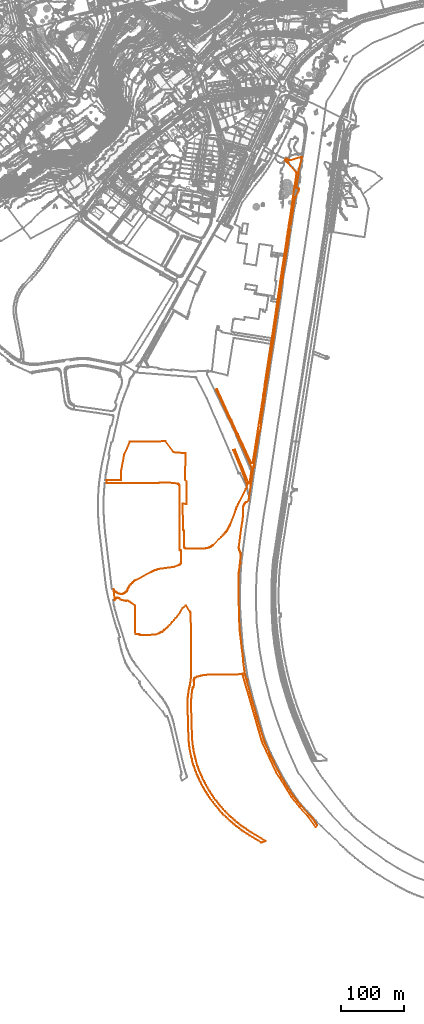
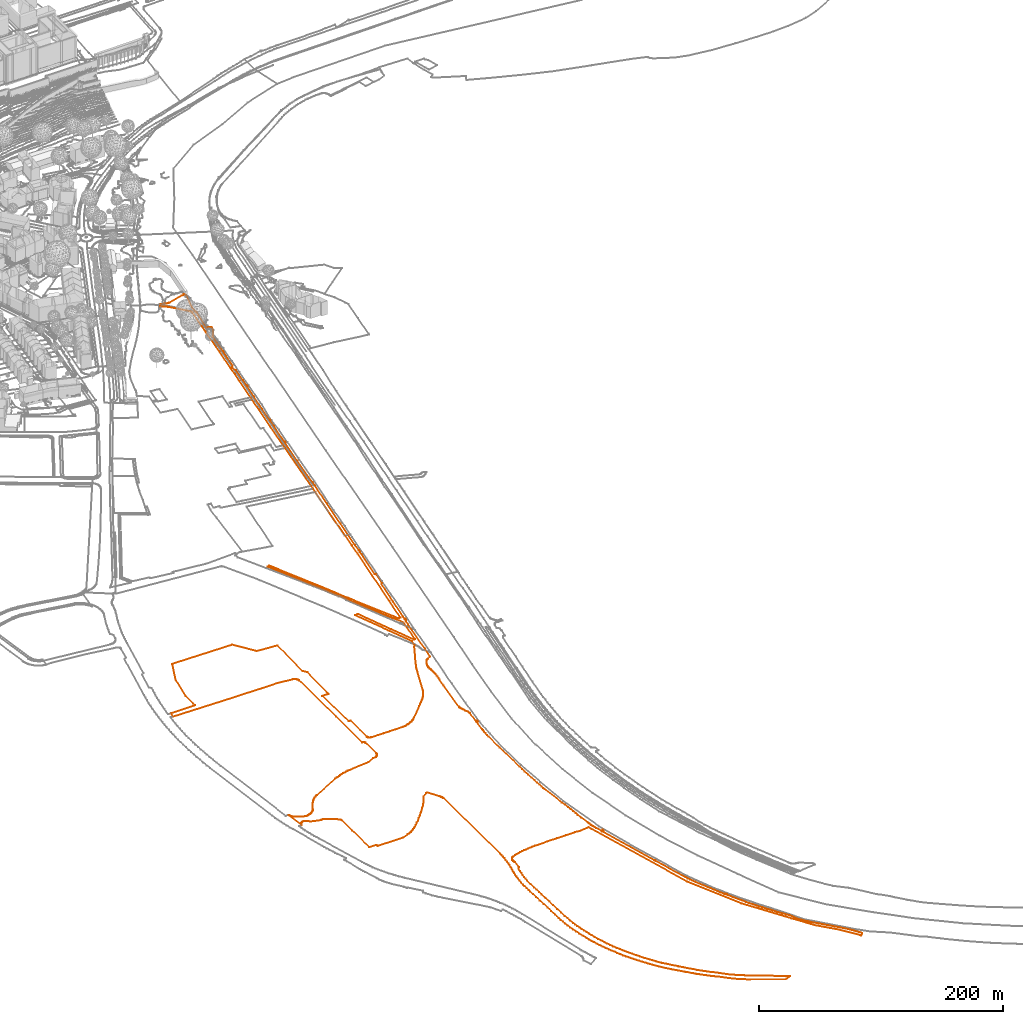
# Not in any storey, part 96 of 477: 1 civil element.
"""IFC4 model written with IfcOpenShell, lengths in metres."""

import ifcopenshell
import ifcopenshell.guid

model = None  # the IFC model being written
_history = None  # IfcOwnerHistory: only IFC2X3 demands one
_inside = {}  # id of a spatial element -> (the spatial element, [elements in it])
_under = {}  # id of a project, library or spatial element -> (it, [spatial elements below it])
_declared = {}  # id of a project -> (the project, [libraries it declares])
_typed = {}  # id of a type object -> (the type object, [elements of that type])
_made_of = {}  # id of a material, layer set ... -> (it, [elements and type objects made of it])


def new_model(schema):
    """Start an empty IFC model of exactly this schema.

    Asked for "IFC4X3", IfcOpenShell would pick the latest addendum, in which some entities
    have other attributes; the version numbers below select the first issue.
    IFC2X3 requires an IfcOwnerHistory on every rooted entity: one is made here for all.
    """
    global model, _history
    if schema == "IFC4X3":
        model = ifcopenshell.file(schema_version=(4, 3, 0, 0))
    else:
        model = ifcopenshell.file(schema=schema)
    _inside.clear()
    _under.clear()
    _declared.clear()
    _typed.clear()
    _made_of.clear()
    _history = None
    if model.schema == "IFC2X3":
        org = make("IfcOrganization", Name="unknown")
        user = make(
            "IfcPersonAndOrganization",
            ThePerson=make("IfcPerson", FamilyName="unknown"),
            TheOrganization=org,
        )
        app = make(
            "IfcApplication",
            ApplicationDeveloper=org,
            Version="unknown",
            ApplicationFullName="unknown",
            ApplicationIdentifier="unknown",
        )
        _history = make(
            "IfcOwnerHistory",
            OwningUser=user,
            OwningApplication=app,
            ChangeAction="ADDED",
            CreationDate=0,
        )
    return model


def make(cls, **values):
    """One entity of the class cls with the attributes given. An attribute that is None is left unset."""
    return model.create_entity(
        cls, **{name: value for name, value in values.items() if value is not None}
    )


def entity(cls, *values):
    """Any entity or typed value of the class cls, its attributes in the order of the schema. None: left unset."""
    e = model.create_entity(cls)
    for i, value in enumerate(values):
        if value is not None:
            e[i] = value
    return e


def rooted(cls, **values):
    """An entity with a GlobalId (a new one), such as an element, a storey or a relation."""
    return make(cls, GlobalId=ifcopenshell.guid.new(), OwnerHistory=_history, **values)


def si_unit(unit_type, name, prefix=None):
    """IfcSIUnit, for example si_unit("LENGTHUNIT", "METRE", prefix="MILLI")."""
    return make("IfcSIUnit", UnitType=unit_type, Prefix=prefix, Name=name)


def assignment(units):
    """IfcUnitAssignment: the units of a project."""
    return None if units is None else make("IfcUnitAssignment", Units=units)


def point(xyz):
    """IfcCartesianPoint."""
    return None if xyz is None else make("IfcCartesianPoint", Coordinates=xyz)


def direction(xyz):
    """IfcDirection."""
    return None if xyz is None else make("IfcDirection", DirectionRatios=xyz)


def frame(location, z_axis=None, x_axis=None):
    """IfcAxis2Placement3D, a coordinate frame: its origin and axes. An axis left out is left unset."""
    return make(
        "IfcAxis2Placement3D",
        Location=point(location),
        Axis=direction(z_axis),
        RefDirection=direction(x_axis),
    )


def origin_with_axes():
    """The frame at (0, 0, 0) with the z axis (0, 0, 1) and the x axis (1, 0, 0) written out."""
    return frame((0.0, 0.0, 0.0), z_axis=(0.0, 0.0, 1.0), x_axis=(1.0, 0.0, 0.0))


def place(relative_to, where):
    """IfcLocalPlacement: puts the frame where relative to a parent placement (None: the world)."""
    return make(
        "IfcLocalPlacement", PlacementRelTo=relative_to, RelativePlacement=where
    )


def context(
    kind, dimensions, precision=None, world=None, true_north=None, identifier=None
):
    """IfcGeometricRepresentationContext, for example the 3D "Model" context."""
    return make(
        "IfcGeometricRepresentationContext",
        ContextIdentifier=identifier,
        ContextType=kind,
        CoordinateSpaceDimension=dimensions,
        Precision=precision,
        WorldCoordinateSystem=world,
        TrueNorth=true_north,
    )


def subcontext(parent, identifier, kind, view, scale=None):
    """IfcGeometricRepresentationSubContext, for example "Body" below "Model"."""
    return make(
        "IfcGeometricRepresentationSubContext",
        ContextIdentifier=identifier,
        ContextType=kind,
        ParentContext=parent,
        TargetScale=scale,
        TargetView=view,
    )


def project(units=None, contexts=None):
    """IfcProject with its units and contexts."""
    return rooted(
        "IfcProject",
        Name="project",
        RepresentationContexts=contexts,
        UnitsInContext=assignment(units),
    )


def spatial(cls, under=None, at=None, **own):
    """A site, building, storey or space (cls), placed at a placement, below another one or the project."""
    s = rooted(cls, ObjectPlacement=at, **own)
    if under is not None:
        _under.setdefault(under.id(), (under, []))[1].append(s)
    return s


def shape(context_of_items, identifier, shape_type, items):
    """IfcShapeRepresentation: the items that make up one representation, for example the "Body"."""
    return make(
        "IfcShapeRepresentation",
        ContextOfItems=context_of_items,
        RepresentationIdentifier=identifier,
        RepresentationType=shape_type,
        Items=items,
    )


def made_of(thing, what):
    """Note that an element or type object is made of a material, layer set ...; save() writes the relation."""
    if what is not None:
        _made_of.setdefault(what.id(), (what, []))[1].append(thing)
    return thing


def element(
    cls,
    number,
    at=None,
    inside=None,
    cuts=None,
    type_object=None,
    material=None,
    context=None,
    identifier="Body",
    shape_type=None,
    held_by="IfcProductDefinitionShape",
    body=None,
    shapes=None,
    **own,
):
    """One element of the class cls, such as IfcWall. Its Tag is "e" and its number.

    at: its placement. inside: the storey or other place that contains it. cuts: it is an
    opening in that element (IfcRelVoidsElement). A single representation is given by context,
    identifier, shape_type and body (its items); several are given by shapes. held_by: the class
    of the entity that holds the representations. save() writes the other relations.
    """
    e = rooted(cls, Tag="e%d" % number, ObjectPlacement=at, **own)
    if body is not None:
        shapes = [shape(context, identifier, shape_type, body)]
    if shapes is not None:
        e.Representation = make(held_by, Representations=shapes)
    if inside is not None:
        _inside.setdefault(inside.id(), (inside, []))[1].append(e)
    if cuts is not None:
        rooted(
            "IfcRelVoidsElement", RelatingBuildingElement=cuts, RelatedOpeningElement=e
        )
    if type_object is not None:
        _typed.setdefault(type_object.id(), (type_object, []))[1].append(e)
    return made_of(e, material)


def aggregate(whole, parts):
    """IfcRelAggregates: a whole, such as a stair, and the parts it consists of."""
    return rooted("IfcRelAggregates", RelatingObject=whole, RelatedObjects=parts)


def save(model, path):
    """Write the relations noted so far, then the file.

    IfcRelAggregates (storeys below a building ...), IfcRelContainedInSpatialStructure (elements
    in a storey), IfcRelDefinesByType, IfcRelAssociatesMaterial and IfcRelDeclares: one each for
    every whole, place, type object, material and project.
    """
    for whole, parts in _under.values():
        aggregate(whole, parts)
    for where, things in _inside.values():
        rooted(
            "IfcRelContainedInSpatialStructure",
            RelatedElements=things,
            RelatingStructure=where,
        )
    for kind, things in _typed.values():
        rooted("IfcRelDefinesByType", RelatedObjects=things, RelatingType=kind)
    for what, things in _made_of.values():
        rooted("IfcRelAssociatesMaterial", RelatedObjects=things, RelatingMaterial=what)
    for by, libraries in _declared.values():
        rooted("IfcRelDeclares", RelatingContext=by, RelatedDefinitions=libraries)
    model.write(path)


model = new_model("IFC4")

# Units and contexts
model_context = context("Model", 3, precision=1e-05, world=origin_with_axes())
body_context = subcontext(model_context, "Body", "Model", "MODEL_VIEW")
ifc_project = project(units=[si_unit("AREAUNIT", "SQUARE_METRE"), si_unit("LENGTHUNIT", "METRE")], contexts=[model_context])

# Sites
site_1_placement = place(None, origin_with_axes())
site_1 = spatial("IfcSite", under=ifc_project, at=site_1_placement, Name="Topoexport Site")
site_2_placement = place(site_1_placement, origin_with_axes())
site_2 = spatial("IfcSite", under=site_1, at=site_2_placement, Name="TPX_ROADS_OUTLINES")

# Civil element
civil_element_placement = place(site_2_placement, frame((303.0137320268, -440.8292839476, 503.8560653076), z_axis=(0.0, 0.0, 1.0), x_axis=(1.0, 0.0, 0.0)))
element("IfcCivilElement", 1, at=civil_element_placement, inside=site_2, Name="Roads Outline 136", ObjectType="ROAD", context=body_context, shape_type="GeometricCurveSet", body=[
    entity("IfcGeometricCurveSet", [entity("IfcIndexedPolyCurve", entity("IfcCartesianPointList3D", [[0.0, 0.0, 0.0], [0.5699999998, 4.9720000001, -0.0185728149], [0.8619999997, 4.9739999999, -0.0180470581], [23.665, 5.1130000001, -0.069758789], [23.656, 8.169, -0.0702235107], [23.6200000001, 20.2879999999, -0.0720823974], [28.4759999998, 45.423, -0.1940826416], [37.3930000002, 66.2930000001, -0.4538493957], [94.4079999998, 66.828, -1.5099517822], [107.4219999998, 49.2650000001, -1.7820223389], [126.5260000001, 47.6470000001, -1.839482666], [125.9180000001, 5.7380000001, -1.8063877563], [125.915, 5.5619999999, -1.8063896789], [128.5529999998, 2.341, -1.9524316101], [128.1069999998, -31.8910000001, -1.948449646], [128.077, -33.203, -1.9468474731], [121.9440000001, -33.1980000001, -1.757026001], [122.6119999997, -75.487, -1.7481082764], [124.3399999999, -75.6899999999, -1.7614564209], [124.5260000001, -101.9469999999, -1.7717077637], [124.52, -102.3100000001, -1.7713770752], [124.574, -102.669, -1.7743532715], [124.6859999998, -103.014, -1.780526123], [124.855, -103.3359999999, -1.7898405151], [125.074, -103.625, -1.8019106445], [125.3429999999, -103.878, -1.8067562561], [125.6510000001, -104.0819999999, -1.8065588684], [125.9890000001, -104.2309999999, -1.8063422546], [126.4029999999, -104.3929999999, -1.8281841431], [126.8339999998, -104.5060000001, -1.8677749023], [127.2739999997, -104.567, -1.9039626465], [127.719, -104.5759999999, -1.9277282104], [128.162, -104.5319999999, -1.9513869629], [133.8849999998, -104.652, -1.8698758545], [139.608, -104.7079999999, -1.8683076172], [145.3319999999, -104.7009999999, -1.8858287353], [151.159, -104.629, -1.9512352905], [156.9849999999, -104.4920000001, -1.9538633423], [158.2149999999, -104.4339999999, -1.934482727], [159.4399999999, -104.301, -1.9048671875], [160.6540000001, -104.0929999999, -1.875848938], [161.8539999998, -103.811, -1.8996114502], [163.0329999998, -103.4569999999, -1.9230893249], [164.1889999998, -103.031, -1.8697730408], [165.3169999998, -102.5349999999, -1.8197273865], [166.2709999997, -102.0489999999, -1.8196809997], [167.1970000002, -101.513, -1.8321773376], [168.094, -100.929, -1.8481365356], [168.9580000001, -100.298, -1.8737583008], [169.7879999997, -99.622, -1.896288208], [170.5800000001, -98.902, -1.9158157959], [183.4610000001, -86.2179999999, -1.3596831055], [185.824, -83.7719999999, -1.3663338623], [187.3739999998, -82.1710000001, -1.4317284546], [188.9249999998, -80.571, -1.3641902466], [190.023, -79.4110000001, -1.3703899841], [191.0759999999, -78.21, -1.4256588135], [192.0830000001, -76.97, -1.4962234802], [193.0409999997, -75.692, -1.4439494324], [193.949, -74.379, -1.4213381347], [194.807, -73.031, -1.4702389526], [195.6999999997, -71.493, -1.5203634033], [196.5260000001, -69.9180000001, -1.534645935], [197.284, -68.3100000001, -1.5317342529], [197.9739999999, -66.6710000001, -1.552496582], [206.7239999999, -42.9480000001, -1.694862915], [207.6060000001, -40.7220000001, -1.7964620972], [208.523, -38.51, -1.8711724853], [209.4739999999, -36.3130000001, -1.935430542], [210.855, -33.2760000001, -2.0270752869], [212.301, -30.2690000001, -2.1056073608], [222.767, -9.9129999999, -2.082488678], [224.1799999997, -7.7420000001, -2.0699747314], [225.0299999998, -2.1359999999, -2.0414148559], [216.264, 20.737, -2.1290725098], [202.9449999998, 52.638, -1.4571734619], [202.8539999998, 52.8559999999, -1.4611947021], [205.7999999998, 53.5960000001, -1.5646682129], [205.8659999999, 53.4340000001, -1.5739837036], [218.8300000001, 21.4099999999, -2.1117800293], [227.8160000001, -1.0549999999, -2.0339625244], [228.77, -0.6780000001, -2.0474083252], [232.6510000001, 24.476, -2.0462187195], [227.804, 35.007, -2.0339376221], [215.7289999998, 61.2180000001, -2.1444988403], [208.1370000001, 77.629, -1.8441205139], [198.0839999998, 99.557, -1.5558065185], [175.4739999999, 149.2139999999, -1.656654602], [177.2719999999, 149.9739999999, -1.5602685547], [199.9929999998, 100.398, -1.5054670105], [210.1770000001, 78.375, -1.9814518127], [210.3739999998, 78.4469999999, -1.9947081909], [217.8969999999, 62.1059999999, -2.1232266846], [229.9580000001, 36.0420000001, -2.0658093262], [231.6919999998, 32.0919999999, -2.0596048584], [233.7680000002, 31.807, -2.0174477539], [237.7569999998, 56.821, -1.9548127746], [243.8900000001, 95.683, -1.8697148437], [249.0690000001, 128.4110000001, -1.8763407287], [250.8789999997, 141.0490000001, -1.8569103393], [250.9410000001, 141.4610000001, -1.8572244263], [263.102, 222.372, -1.8904404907], [263.926, 227.385, -1.8876708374], [264.577, 231.5830000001, -1.8818372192], [273.1060000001, 289.3149999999, -1.865706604], [273.713, 293.328, -1.8957844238], [277.98, 322.1340000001, -1.9439381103], [281.8289999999, 347.5730000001, -1.8219083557], [284.1609999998, 362.764, -1.7495014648], [284.6639999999, 366.0349999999, -1.7439284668], [288.477, 390.868, -1.6981428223], [290.0549999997, 401.1810000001, -1.6916367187], [291.6069999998, 411.4980000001, -1.7082277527], [293.3619999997, 423.4000000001, -1.651717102], [295.085, 435.3060000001, -1.5401221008], [299.6859999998, 466.2210000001, -1.609859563], [300.8220000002, 473.851, -1.5739204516], [303.9479999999, 494.8530000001, -1.4934007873], [303.9669999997, 495.3060000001, -1.486168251], [303.9199999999, 495.757, -1.4857943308], [303.8079999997, 496.1969999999, -1.488746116], [303.6549999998, 496.5660000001, -1.4900020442], [303.4569999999, 496.912, -1.4930613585], [303.2169999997, 497.2309999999, -1.5007564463], [290.8419999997, 511.939, -1.6023557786], [290.273, 512.5260000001, -1.6332850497], [289.6859999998, 513.0960000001, -1.6591975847], [289.0350000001, 513.6840000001, -1.6983902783], [288.3640000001, 514.2480000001, -1.7312340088], [285.4529999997, 515.7650000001, -1.8036242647], [285.7039999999, 516.1850000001, -1.7754681], [287.3089999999, 518.73, -1.7915284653], [287.5749999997, 519.135, -1.8801487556], [288.8149999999, 518.493, -1.911696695], [288.9890000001, 518.4029999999, -1.9189003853], [291.023, 517.3500000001, -1.6318403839], [291.6039999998, 517.0630000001, -1.6040363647], [292.2119999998, 516.8370000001, -1.5872815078], [292.8399999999, 516.676, -1.5676868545], [293.3789999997, 516.5900000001, -1.543269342], [293.9219999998, 516.5519999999, -1.508288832], [294.4679999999, 516.561, -1.4845377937], [295.0099999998, 516.618, -1.4711357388], [308.4199999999, 520.6329999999, -1.6613354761], [310.9959999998, 520.5590000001, -1.7402485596], [311.0430000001, 520.575, -1.7418862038], [311.0460000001, 520.6040000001, -1.7423348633], [311.1439999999, 521.5190000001, -1.7546698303], [311.9440000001, 521.402, -2.309300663], [313.2209999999, 521.216, -3.181858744], [313.1289999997, 520.889, -3.146473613], [307.835, 502.105, -2.0829799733], [306.8259999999, 494.96, -1.8189561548], [307.5949999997, 494.855, -2.1714796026], [307.594, 494.8470000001, -2.170494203], [307.429, 493.1599999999, -1.8881369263], [307.2310000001, 493.1850000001, -1.7833401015], [303.7549999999, 471.7990000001, -2.2347051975], [304.1579999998, 471.7350000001, -2.4628235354], [304.1689999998, 471.733, -2.4689784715], [308.1179999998, 471.1040000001, -3.0090957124], [307.7969999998, 469.1640000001, -3.1164416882], [307.5079999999, 467.4170000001, -3.1555716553], [307.4449999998, 467.138, -3.1358712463], [307.3479999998, 466.8700000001, -3.1178460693], [307.2169999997, 466.6159999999, -3.1017246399], [302.173, 457.696, -2.2406642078], [301.767, 457.669, -2.0799495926], [298.0699999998, 434.879, -1.5953985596], [298.2850000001, 434.8530000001, -1.6628259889], [298.003, 433.2110000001, -1.5880131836], [297.8059999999, 433.24, -1.5662979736], [294.747, 412.7650000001, -1.5688698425], [293.0439999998, 411.1000000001, -1.6663631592], [292.6119999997, 407.2620000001, -1.6895267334], [293.7140000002, 405.6840000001, -1.6371184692], [291.4449999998, 390.335, -1.7066803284], [290.2790000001, 382.8389999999, -1.6925988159], [290.608, 382.79, -1.6968358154], [290.3739999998, 381.128, -1.6938222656], [290.0209999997, 381.1810000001, -1.691798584], [287.6299999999, 365.8049999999, -1.6953121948], [284.486, 346.7210000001, -1.7459003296], [282.0600000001, 330.713, -1.8102977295], [282.6439999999, 330.6159999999, -1.7838302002], [282.378, 328.923, -1.7956008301], [281.9819999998, 328.98, -1.8142182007], [280.855, 321.219, -1.8678841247], [277.1230000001, 297.456, -1.9355014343], [277.7659999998, 297.3640000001, -1.941645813], [277.6000000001, 296.226, -1.9398676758], [276.9569999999, 296.3200000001, -1.9367324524], [272.6370000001, 269.044, -1.8506352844], [272.966, 268.9839999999, -1.8612077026], [272.804, 267.9920000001, -1.856001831], [272.486, 268.0490000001, -1.8457828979], [269.111, 243.7990000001, -1.8815129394], [268.236, 236.165, -1.891019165], [267.409, 230.568, -1.8880687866], [263.0279999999, 203.3030000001, -1.8888890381], [258.6359999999, 174.6899999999, -1.891118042], [258.4010000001, 172.925, -1.8928105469], [253.4210000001, 140.669, -1.8918656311], [252.3020000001, 132.3370000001, -1.8749806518], [252.6200000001, 132.298, -1.8833363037], [252.3769999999, 130.3149999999, -1.8769513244], [252.0579999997, 130.3530000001, -1.8699765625], [251.3649999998, 126.226, -1.8609672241], [246.7110000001, 96.48, -1.8876138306], [247.3059999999, 95.75, -1.8974387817], [247.6030000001, 95.7, -1.9033573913], [245.6149999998, 82.105, -1.8799378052], [245.2039999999, 82.1500000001, -1.8805147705], [244.9720000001, 82.0860000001, -1.8772310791], [244.7590000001, 81.9720000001, -1.8735259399], [244.5759999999, 81.8149999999, -1.8703426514], [244.415, 81.5900000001, -1.8675420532], [244.3149999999, 81.3330000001, -1.8658025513], [240.094, 54.8689999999, -1.911062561], [236.392, 32.0020000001, -1.9553116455], [235.7859999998, 28.419, -1.9655569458], [236.6349999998, 28.2380000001, -1.9554451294], [236.2620000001, 26.625, -1.9552402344], [235.5109999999, 26.7920000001, -1.973101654], [234.3640000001, 20.0150000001, -1.9988326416], [228.9270000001, -16.6410000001, -2.0507047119], [227.1680000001, -28.3840000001, -2.0326177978], [224.0589999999, -30.1299999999, -2.071447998], [223.531, -30.433, -2.0761530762], [223.0299999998, -30.7789999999, -2.0804580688], [222.5600000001, -31.166, -2.084086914], [222.105, -31.628, -2.0876953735], [221.6869999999, -32.1229999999, -2.0915988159], [221.307, -32.649, -2.0951473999], [220.96, -33.216, -2.1004547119], [220.659, -33.808, -2.1063152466], [220.1329999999, -34.78, -2.1157004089], [219.6609999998, -35.78, -2.1118544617], [219.2450000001, -36.8049999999, -2.1084648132], [218.898, -37.8130000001, -2.1109707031], [218.6039999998, -38.838, -2.1144698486], [218.3649999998, -39.8769999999, -2.1173143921], [218.3119999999, -40.5009999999, -2.1179451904], [218.298, -41.1269999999, -2.1181118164], [218.324, -41.753, -2.1178023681], [218.361, -42.98, -2.1173619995], [218.4279999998, -44.2050000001, -2.1165645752], [218.5, -45.1099999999, -2.1157076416], [218.5549999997, -46.017, -2.1150530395], [218.605, -47.513, -2.1144579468], [218.6060000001, -49.0090000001, -2.1144460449], [218.5579999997, -50.5049999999, -2.115017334], [218.4550000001, -52.5530000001, -2.1162432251], [218.287, -54.5970000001, -2.1182427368], [218.0529999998, -56.635, -2.1211700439], [217.7539999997, -58.6639999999, -2.1251119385], [217.3909999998, -60.682, -2.129897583], [215.8799999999, -70.0870000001, -2.1389967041], [211.6899999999, -102.5999999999, -2.0726047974], [211.645, -102.8359999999, -2.0704885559], [211.6310000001, -103.075, -2.0698301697], [211.648, -103.324, -2.0706296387], [211.6979999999, -103.5689999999, -2.0729810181], [211.943, -104.659, -2.0845027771], [212.2390000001, -105.736, -2.1007598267], [212.5890000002, -106.8189999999, -2.128124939], [213.0019999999, -107.8799999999, -2.1604157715], [213.5669999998, -109.389, -2.1700072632], [214.0979999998, -110.9110000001, -2.1659560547], [214.5120000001, -112.183, -2.1653250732], [214.9010000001, -113.463, -2.1651826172], [214.9929999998, -114.0249999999, -2.1651489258], [215.0589999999, -114.591, -2.1651247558], [213.5919999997, -127.2050000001, -2.1698165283], [214.6850000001, -127.362, -2.1652617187], [214.4699999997, -128.8570000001, -2.1653404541], [213.4180000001, -128.7050000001, -2.171144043], [212.1499999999, -139.6140000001, -2.0942374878], [211.9419999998, -141.5730000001, -2.0844557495], [211.7599999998, -143.5349999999, -2.0758967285], [211.5499999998, -146.2209999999, -2.066020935], [211.3859999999, -148.9099999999, -2.0583084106], [211.2680000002, -151.601, -2.0527591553], [211.281, -170.101, -2.0533705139], [211.8969999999, -201.8589999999, -2.082339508], [211.9989999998, -205.807, -2.087136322], [212.1149999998, -209.7549999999, -2.0925915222], [212.29, -215.0559999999, -2.1047473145], [212.4890000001, -220.3559999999, -2.1203063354], [212.6740000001, -224.5630000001, -2.134770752], [212.8799999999, -228.77, -2.1508770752], [213.1039999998, -232.175, -2.1683907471], [213.3659999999, -235.577, -2.1715407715], [213.551, -237.5889999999, -2.1701293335], [213.7549999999, -239.5999999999, -2.168572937], [216.3160000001, -263.253, -2.1292930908], [216.9369999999, -267.476, -2.1319273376], [217.4849999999, -271.71, -2.1286583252], [217.8629999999, -275.0530000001, -2.1236749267], [218.196, -278.3999999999, -2.1193258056], [218.5129999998, -281.8729999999, -2.1155529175], [218.7930000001, -285.3489999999, -2.1122203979], [219.3629999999, -289.8769999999, -2.1094263], [220.4279999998, -298.3940000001, -2.1108128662], [220.6089999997, -299.753, -2.1072887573], [220.801, -301.111, -2.1035504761], [220.963, -302.193, -2.1003963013], [221.1329999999, -303.273, -2.0970863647], [221.324, -304.2930000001, -2.0949886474], [221.537, -305.3089999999, -2.0929995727], [221.9550000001, -307.1099999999, -2.0890961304], [222.429, -308.8969999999, -2.0850983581], [223.9509999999, -314.371, -2.0724104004], [225.5559999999, -313.987, -2.0441739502], [225.8999999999, -315.4369999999, -2.0505462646], [224.344, -315.8089999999, -2.0644643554], [240.415, -372.9029999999, -1.9077986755], [241.2999999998, -372.9380000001, -1.9031798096], [241.5239999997, -373.919, -1.8974923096], [240.8700000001, -374.4879999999, -1.9070905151], [250.6970000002, -407.2879999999, -1.8559883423], [251.398, -409.4339999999, -1.8613962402], [252.1430000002, -411.5649999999, -1.871081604], [253.0619999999, -414.017, -1.8949501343], [254.037, -416.4469999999, -1.8780484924], [260.4649999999, -431.024, -1.866234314], [261.9369999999, -434.3419999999, -1.868862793], [263.449, -437.6429999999, -1.8902182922], [264.9070000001, -440.73, -1.8781915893], [266.3989999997, -443.8, -1.8869275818], [266.5929999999, -444.179, -1.8869098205], [267.1869999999, -443.8910000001, -1.8869712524], [267.8599999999, -445.156, -1.8902984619], [267.2569999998, -445.476, -1.8873173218], [274.4049999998, -459.4269999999, -1.9243604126], [275.8859999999, -462.3589999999, -1.9422653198], [277.4189999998, -465.264, -1.9379288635], [278.9329999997, -468.0179999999, -1.9434214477], [280.4920000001, -470.746, -1.8826287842], [282.1489999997, -473.5859999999, -1.8058243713], [283.838, -476.4069999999, -1.7531683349], [286.0019999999, -480.013, -1.7182885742], [288.1979999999, -483.5989999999, -1.6990623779], [290.8539999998, -487.844, -1.7000039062], [293.554, -492.061, -1.6437542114], [295.344, -494.808, -1.5298928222], [297.1749999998, -497.5279999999, -1.496743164], [299.2879999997, -500.567, -2.1364044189], [301.449, -503.5719999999, -3.0326581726], [303.1749999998, -505.8640000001, -3.0519510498], [304.9380000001, -508.1259999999, -3.0614596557], [306.7379999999, -510.3599999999, -3.0450078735], [308.5690000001, -512.5819999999, -3.0261374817], [310.432, -514.7760000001, -3.0139138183], [312.3279999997, -516.942, -3.0015041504], [325.6039999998, -531.541, -3.0837215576], [327.2059999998, -533.3499999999, -3.084427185], [328.7590000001, -535.2, -3.0731000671], [329.9839999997, -536.733, -3.0641652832], [331.176, -538.2930000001, -3.0554711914], [332.3339999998, -539.8769999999, -3.0464959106], [334.0120000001, -542.2590000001, -3.0884259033], [335.6299999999, -544.683, -3.1050050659], [337.1850000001, -547.1469999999, -3.0583515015], [337.2239999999, -547.209, -3.0593441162], [337.125, -547.301, -3.0591571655], [334.8220000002, -549.8640000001, -3.1097992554], [322.7310000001, -533.3100000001, -3.0565150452], [308.98, -518.135, -3.0234407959], [296.1880000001, -502.0700000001, -1.5134613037], [271.7339999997, -462.7320000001, -1.8459597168], [248.6779999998, -413.2819999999, -1.8928432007], [218.5269999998, -308.416, -2.1153862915], [217.514, -304.9139999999, -2.128276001], [208.2749999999, -306.2609999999, -1.8541588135], [206.0609999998, -306.3499999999, -1.6015067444], [203.8459999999, -306.422, -1.3860768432], [195.3289999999, -306.469, -1.505984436], [186.8119999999, -306.4679999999, -1.4170943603], [177.6799999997, -306.4139999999, -1.5375949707], [168.548, -306.3030000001, -1.8611710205], [166.2650000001, -306.2989999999, -1.8196009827], [163.983, -306.362, -1.8809368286], [161.7039999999, -306.49, -1.8965535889], [159.4299999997, -306.6850000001, -1.9053966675], [157.162, -306.9450000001, -1.9556242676], [155.1030000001, -307.273, -1.9680050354], [153.0559999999, -307.665, -1.9697589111], [151.0219999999, -308.121, -1.9516784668], [149.003, -308.6410000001, -1.8993283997], [147.0019999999, -309.2239999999, -1.8353161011], [145.02, -309.8699999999, -1.8856661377], [142.8810000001, -310.7239999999, -1.8824906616], [142.3569999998, -310.923, -1.8822028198], [141.8659999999, -311.192, -1.8859527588], [141.415, -311.5249999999, -1.8917884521], [141.014, -311.915, -1.891406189], [140.6710000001, -312.3559999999, -1.8831054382], [140.3909999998, -312.8400000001, -1.8763293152], [140.1439999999, -313.3599999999, -1.870744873], [139.9569999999, -313.9029999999, -1.8698945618], [139.8309999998, -314.4650000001, -1.8693216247], [139.7680000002, -315.0360000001, -1.8690351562], [139.7689999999, -315.611, -1.8690397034], [139.8330000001, -316.183, -1.869330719], [139.8739999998, -316.818, -1.8695171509], [139.9610000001, -317.4469999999, -1.8699127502], [140.094, -318.0689999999, -1.8705175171], [140.2709999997, -318.6799999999, -1.8734252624], [139.6609999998, -325.932, -1.8685486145], [139.2719999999, -326.132, -1.8667797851], [138.9169999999, -326.3869999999, -1.872017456], [138.602, -326.6909999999, -1.8793233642], [138.335, -327.037, -1.8855159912], [138.1209999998, -327.419, -1.8883049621], [137.9649999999, -327.827, -1.8840345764], [137.3629999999, -331.2619999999, -1.8675552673], [136.835, -334.71, -1.8378103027], [136.449, -337.6359999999, -1.8093032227], [136.1129999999, -340.5689999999, -1.7890972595], [135.8279999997, -343.507, -1.7938026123], [135.5949999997, -346.449, -1.7976494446], [135.5660000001, -352.017, -1.7981282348], [135.6039999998, -357.585, -1.7975008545], [135.6719999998, -361.6399999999, -1.7963781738], [135.7760000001, -365.6950000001, -1.7946611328], [135.9159999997, -369.7479999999, -1.7923497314], [136.077, -375.6680000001, -1.7896916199], [136.2450000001, -381.5870000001, -1.7942373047], [136.4180000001, -387.662, -1.8070137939], [136.5919999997, -393.736, -1.8198641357], [136.784, -399.561, -1.8340438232], [136.9929999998, -405.3859999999, -1.8494790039], [137.2519999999, -409.4280000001, -1.8645167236], [137.5720000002, -413.466, -1.8732764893], [137.9529999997, -417.4979999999, -1.8837060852], [138.3169999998, -420.2420000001, -1.8859334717], [138.7349999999, -422.9779999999, -1.8762386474], [139.2059999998, -425.706, -1.8664796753], [139.7289999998, -428.4239999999, -1.8688578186], [140.3020000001, -431.3859999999, -1.8741754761], [140.9199999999, -434.3400000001, -1.8891313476], [141.5830000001, -437.2830000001, -1.889614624], [142.2909999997, -440.216, -1.8821665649], [143.2579999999, -443.9439999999, -1.8813093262], [144.2960000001, -447.6539999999, -1.8710836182], [145.406, -451.3419999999, -1.8846228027], [146.3989999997, -454.2849999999, -1.861907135], [147.4569999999, -457.2050000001, -1.8373553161], [148.5800000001, -460.102, -1.8792550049], [149.767, -462.9720000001, -1.9356022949], [151.1680000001, -466.2509999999, -1.9512675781], [152.6340000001, -469.5009999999, -1.9667196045], [154.165, -472.7220000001, -2.001811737], [155.9359999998, -476.308, -1.9502807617], [157.7749999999, -479.8589999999, -1.9432071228], [159.6809999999, -483.375, -1.89210672], [161.6510000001, -486.8769999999, -1.8954731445], [163.682, -490.344, -1.8973793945], [165.773, -493.7749999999, -1.8189341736], [167.3969999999, -496.2889999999, -1.8357356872], [169.0639999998, -498.774, -1.8770125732], [170.7739999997, -501.23, -1.9203685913], [172.5249999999, -503.6569999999, -1.8316688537], [174.716, -506.6399999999, -1.6950716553], [176.9529999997, -509.5870000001, -1.5735273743], [179.2379999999, -512.4979999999, -1.4840658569], [181.6770000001, -515.4809999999, -1.3372251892], [184.1719999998, -518.4169999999, -1.378368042], [186.7209999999, -521.307, -1.4116095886], [189.48, -524.3389999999, -1.3579782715], [192.2930000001, -527.321, -1.4934615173], [195.159, -530.2519999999, -1.4991784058], [197.213, -532.2439999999, -1.5295978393], [199.2990000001, -534.2009999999, -1.5254813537], [201.4180000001, -536.1229999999, -1.5287941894], [203.568, -538.01, -1.4111127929], [205.8989999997, -540.0079999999, -1.5786414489], [208.2609999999, -541.97, -1.8531983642], [210.6519999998, -543.895, -2.0134151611], [213.0729999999, -545.7830000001, -2.16596698], [215.5120000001, -547.6269999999, -2.1524058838], [217.9780000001, -549.433, -2.1221588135], [220.4709999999, -551.2009999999, -2.109975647], [222.9909999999, -552.932, -2.0807591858], [226.1329999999, -555.0589999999, -2.0548623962], [229.304, -557.1440000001, -2.0574666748], [232.503, -559.1839999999, -2.0481111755], [236.9819999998, -561.9469999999, -1.9556357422], [241.4750000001, -564.6880000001, -1.8987364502], [247.929, -568.5730000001, -1.9098539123], [254.409, -572.4139999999, -1.8736371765], [249.9739999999, -574.298, -1.8569063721], [248.0890000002, -575.125, -1.9130423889], [247.659, -574.8699999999, -1.9044733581], [243.0439999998, -572.1189999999, -1.8863448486], [238.4419999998, -569.345, -1.9528049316], [233.6659999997, -566.446, -2.0211986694], [228.915, -563.5079999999, -2.0504527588], [224.281, -560.5430000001, -2.0665811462], [219.6839999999, -557.5190000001, -2.1120418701], [217.1269999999, -555.7349999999, -2.1327333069], [214.5959999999, -553.9139999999, -2.1652943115], [212.0929999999, -552.0549999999, -2.0915569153], [209.6170000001, -550.1599999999, -1.9447869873], [207.1329999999, -548.2039999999, -1.7524284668], [204.6770000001, -546.2120000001, -1.4176966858], [202.2509999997, -544.1850000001, -1.4878409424], [199.8539999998, -542.1229999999, -1.509475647], [196.9380000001, -539.544, -1.5304338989], [194.0649999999, -536.916, -1.4191999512], [191.2369999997, -534.2409999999, -1.4358871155], [189.0239999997, -532.0319999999, -1.3586251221], [186.852, -529.7819999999, -1.419505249], [184.7220000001, -527.4920000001, -1.3590992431], [182.6349999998, -525.1629999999, -1.3386750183], [180.085, -522.2420000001, -1.4104754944], [177.591, -519.274, -1.542540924], [175.1540000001, -516.2590000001, -1.682105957], [172.682, -513.1680000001, -1.8175681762], [170.2489999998, -510.0460000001, -1.9080478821], [167.8560000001, -506.8940000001, -1.8439020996], [166.0469999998, -504.372, -1.81845755], [164.2790000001, -501.821, -1.865178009], [162.554, -499.2420000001, -1.9136315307], [160.8709999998, -496.6340000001, -1.8799746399], [159.2620000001, -494.05, -1.9142919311], [157.693, -491.4409999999, -1.9448762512], [156.165, -488.808, -1.9457053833], [154.679, -486.1510000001, -1.9832865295], [153.213, -483.5449999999, -1.9720709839], [151.7939999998, -480.9129999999, -1.9588518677], [150.4219999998, -478.2560000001, -1.9536193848], [149.0979999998, -475.575, -1.9038366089], [147.8709999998, -472.9739999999, -1.850330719], [146.6889999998, -470.352, -1.8491187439], [145.5520000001, -467.71, -1.8822435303], [144.4610000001, -465.0489999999, -1.8744069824], [143.219, -462.0689999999, -1.8818639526], [142.0449999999, -459.0619999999, -1.8836365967], [140.9389999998, -456.0289999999, -1.889591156], [139.9019999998, -452.9720000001, -1.8696444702], [139.0099999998, -450.145, -1.8698604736], [138.1770000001, -447.301, -1.889180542], [137.4029999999, -444.4399999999, -1.868650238], [136.6880000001, -441.5630000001, -1.8269539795], [135.6850000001, -437.459, -1.7961635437], [134.7579999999, -433.338, -1.82934729], [133.906, -429.2, -1.8695323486], [133.2689999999, -425.5919999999, -1.8799520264], [132.7080000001, -421.9720000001, -1.8888084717], [132.2229999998, -418.3400000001, -1.8964013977], [131.8649999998, -415.1440000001, -1.8939124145], [131.568, -411.942, -1.890522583], [131.3319999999, -408.7339999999, -1.8878289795], [131.156, -405.523, -1.8861341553], [131.0520000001, -399.7660000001, -1.8890286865], [130.9240000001, -394.0090000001, -1.8925911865], [130.7579999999, -387.8489999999, -1.8972113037], [130.5630000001, -381.689, -1.9026385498], [130.4049999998, -375.9399999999, -1.9070360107], [130.2229999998, -370.1909999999, -1.9121014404], [130.1329999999, -365.638, -1.9149885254], [130.0279999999, -361.085, -1.9192054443], [129.8789999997, -358.1459999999, -1.9251894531], [129.798, -355.203, -1.9284425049], [129.7850000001, -352.26, -1.9289645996], [129.8419999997, -349.318, -1.926675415], [129.9669999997, -346.3769999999, -1.9216552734], [130.173, -343.287, -1.913493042], [130.4550000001, -340.202, -1.9056444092], [130.8130000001, -337.1259999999, -1.895680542], [131.2459999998, -334.0589999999, -1.8868474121], [131.6340000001, -331.8969999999, -1.8912758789], [132.0699999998, -329.7449999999, -1.8962521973], [132.554, -327.6029999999, -1.8912194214], [133.162, -325.014, -1.8817008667], [133.699, -322.4099999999, -1.8729183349], [134.1669999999, -319.7930000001, -1.8651304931], [134.5639999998, -317.1639999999, -1.8410933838], [134.8900000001, -314.5249999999, -1.8213551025], [135.139, -311.956, -1.8062789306], [135.321, -309.3810000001, -1.8021731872], [135.4359999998, -306.8019999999, -1.8002745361], [135.4839999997, -304.2209999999, -1.7994820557], [135.4640000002, -301.6399999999, -1.7998122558], [134.9529999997, -209.943, -1.8175406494], [134.9109999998, -209.273, -1.8200836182], [134.8109999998, -208.608, -1.8261383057], [134.6549999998, -207.9550000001, -1.8355836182], [134.406, -207.219, -1.85065979], [134.0860000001, -206.5119999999, -1.8665880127], [133.6979999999, -205.8389999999, -1.8729346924], [127.7220000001, -195.9709999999, -1.9278884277], [126.5819999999, -196.3100000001, -1.844626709], [121.9219999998, -199.575, -1.75715625], [117.4580000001, -207.3100000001, -1.7833876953], [115.1669999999, -210.355, -1.7937341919], [112.8190000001, -213.3570000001, -1.7351310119], [110.415, -216.3130000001, -1.8311427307], [107.9550000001, -219.2239999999, -1.7856008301], [105.4399999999, -222.0870000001, -1.7519156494], [103.1159999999, -224.638, -1.7140509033], [100.75, -227.149, -1.6837068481], [98.3399999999, -229.6189999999, -1.5664954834], [95.889, -232.047, -1.5283698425], [93.3969999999, -234.4339999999, -1.4973636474], [92.2930000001, -235.3859999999, -1.4836441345], [91.1459999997, -236.2849999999, -1.4693665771], [89.9569999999, -237.1299999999, -1.4545621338], [88.7310000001, -237.9180000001, -1.4393102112], [87.486, -238.639, -1.4238258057], [86.2089999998, -239.301, -1.4079256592], [84.9029999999, -239.9039999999, -1.3916949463], [83.5699999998, -240.446, -1.3750975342], [77.9199999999, -242.4579999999, -1.5004885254], [53.3649999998, -243.3389999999, -0.7578548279], [53.3449999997, -241.5389999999, -0.7572206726], [46.2790000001, -241.625, -0.5422986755], [46.0899999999, -213.804, -0.5303836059], [45.9950000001, -196.351, -0.5250578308], [45.0959999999, -195.24, -0.4749642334], [39.9720000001, -191.719, -0.3730074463], [36.7199999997, -189.8959999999, -0.4448179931], [33.5209999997, -187.885, -0.4413586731], [32.571, -188.2179999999, -0.3928240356], [31.9699999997, -188.324, -0.366401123], [31.3619999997, -188.358, -0.3587194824], [30.753, -188.321, -0.3498211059], [28.5520000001, -187.9409999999, -0.1997557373], [24.8229999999, -187.1310000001, -0.016520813], [22.8300000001, -186.368, -0.0820310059], [22.4529999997, -186.138, -0.0666831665], [21.1869999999, -185.0319999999, 0.0051905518], [20.2259999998, -184.2760000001, -0.0251973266], [19.4499999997, -183.7660000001, -0.0574561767], [18.0120000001, -183.0119999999, -0.0552540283], [16.8989999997, -183.2919999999, -0.0315877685], [16.3100000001, -183.561, -0.0274176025], [15.7560000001, -183.8940000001, 0.0102474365], [15.2409999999, -184.287, 0.0564855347], [14.773, -184.7339999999, 0.0867504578], [14.3999999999, -185.1780000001, 0.1090270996], [14.0759999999, -185.659, 0.125866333], [13.8029999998, -186.1710000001, 0.1343809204], [13.5860000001, -186.709, 0.1411489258], [13.426, -187.2660000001, 0.1461391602], [11.3029999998, -169.2279999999, 0.1856955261], [11.4950000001, -169.9069999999, 0.1887482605], [11.7489999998, -170.5649999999, 0.1927867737], [12.0619999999, -171.1969999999, 0.1977633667], [12.432, -171.797, 0.1873051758], [12.8670000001, -172.3769999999, 0.1676977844], [13.3539999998, -172.9139999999, 0.1483847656], [13.889, -173.4029999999, 0.1316986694], [14.4679999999, -173.8389999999, 0.1049659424], [15.7149999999, -174.547, 0.0139285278], [16.983, -175.2169999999, -0.0321824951], [18.27, -175.8489999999, -0.0602596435], [19.7199999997, -176.5009999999, -0.0460523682], [21.1910000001, -177.1029999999, 0.004944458], [22.682, -177.655, -0.0760058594], [23.6979999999, -177.5970000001, -0.0680548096], [24.7080000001, -177.4639999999, -0.0213148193], [25.7039999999, -177.2549999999, -0.0136599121], [26.4249999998, -177.0719999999, -0.0425758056], [27.1319999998, -176.838, -0.094703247], [27.8199999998, -176.5559999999, -0.1454298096], [28.4869999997, -176.226, -0.1949037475], [29.318, -175.6939999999, -0.2601021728], [30.1140000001, -175.111, -0.3358931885], [30.8730000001, -174.4809999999, -0.3516887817], [31.5579999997, -173.838, -0.3611958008], [32.202, -173.155, -0.371090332], [32.8049999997, -172.4339999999, -0.4066063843], [33.1680000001, -171.8230000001, -0.4279035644], [33.4750000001, -171.182, -0.4396053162], [33.7239999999, -170.517, -0.4490963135], [33.9139999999, -169.8319999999, -0.4563384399], [34.6979999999, -168.318, -0.4521948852], [35.5499999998, -166.8419999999, -0.43509198], [36.4699999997, -165.406, -0.4367460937], [37.4539999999, -164.014, -0.4524364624], [38.5009999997, -162.6680000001, -0.4322575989], [39.608, -161.372, -0.396390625], [40.7739999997, -160.128, -0.3409407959], [41.8339999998, -159.0900000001, -0.3366466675], [42.9339999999, -158.095, -0.3692962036], [44.0729999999, -157.1429999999, -0.4224310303], [45.2480000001, -156.2379999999, -0.4831804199], [46.4580000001, -155.3799999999, -0.5543875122], [71.5099999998, -142.209, -1.1598948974], [73.0749999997, -141.415, -1.1659467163], [74.6639999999, -140.673, -1.4716201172], [76.2779999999, -139.9839999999, -1.6179833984], [77.9129999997, -139.3489999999, -1.5005344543], [79.5690000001, -138.7679999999, -1.3442699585], [81.2399999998, -138.243, -1.3525437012], [82.9270000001, -137.774, -1.3670914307], [84.6289999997, -137.361, -1.3882833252], [86.344, -137.0049999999, -1.4096065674], [88.0690000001, -136.7050000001, -1.4310848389], [107.5329999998, -134.254, -1.7827675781], [113.577, -131.5800000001, -1.7114280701], [116.4389999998, -130.997, -1.7954322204], [116.9479999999, -130.74, -1.7885509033], [117.4219999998, -130.425, -1.7836623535], [117.8560000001, -130.0549999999, -1.7803511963], [118.2420000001, -129.6359999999, -1.7787654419], [118.5759999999, -129.1739999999, -1.7820373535], [118.8599999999, -128.656, -1.784819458], [119.0779999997, -128.1070000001, -1.7869550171], [119.2259999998, -127.5349999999, -1.7862156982], [119.304, -126.95, -1.784225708], [119.3079999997, -126.3589999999, -1.7841236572], [119.284, -109.311, -1.7847359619], [119.284, -108.9369999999, -1.7847359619], [119.2149999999, -108.5700000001, -1.7864963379], [119.077, -108.223, -1.7869452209], [118.8769999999, -107.9069999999, -1.7849859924], [118.6209999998, -107.635, -1.7824781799], [118.3279999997, -107.4210000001, -1.7796079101], [118.0019999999, -107.264, -1.7792373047], [117.6519999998, -107.1680000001, -1.7819075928], [117.2909999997, -107.139, -1.7846618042], [116.9299999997, -107.175, -1.7887942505], [116.963, -64.672, -1.788348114], [116.852, -4.6199999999, -1.7898487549], [116.821, -4.173, -1.7902678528], [116.7289999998, -3.7349999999, -1.7915116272], [116.5779999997, -3.3130000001, -1.7935530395], [116.3709999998, -2.916, -1.796351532], [116.0359999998, -2.4280000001, -1.7984547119], [115.6540000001, -1.976, -1.7963796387], [115.2280000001, -1.5649999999, -1.7940655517], [114.909, -1.321, -1.774465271], [114.5619999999, -1.118, -1.7482666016], [114.193, -0.96, -1.7204069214], [113.807, -0.8499999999, -1.7140882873], [113.0260000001, -0.702, -1.7180431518], [112.2379999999, -0.5959999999, -1.7830925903], [99.5, 0.7860000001, -1.6249329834], [85.0260000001, 0.388, -1.3932264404], [0.0, 0.0, 0.0]]))]),
])

save(model, "model.ifc")
